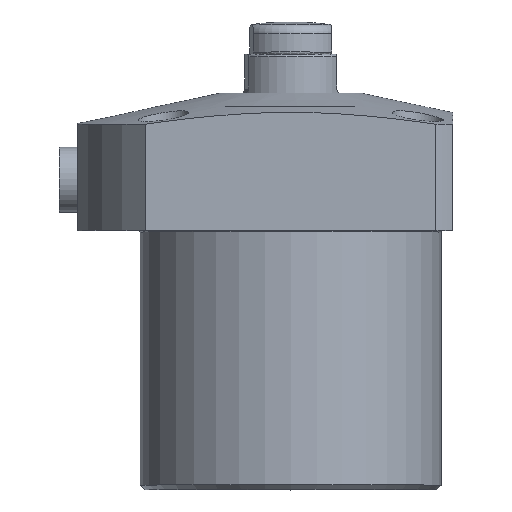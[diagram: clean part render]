
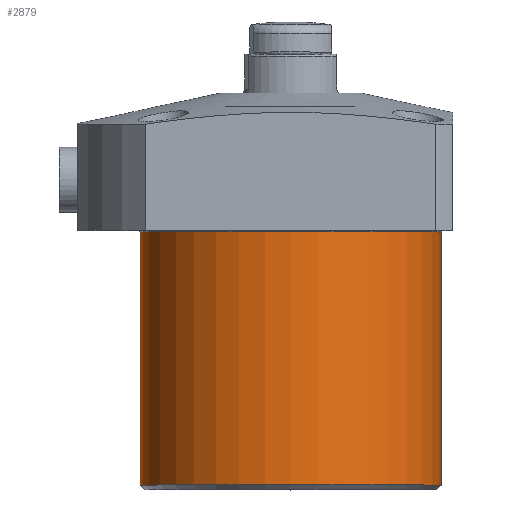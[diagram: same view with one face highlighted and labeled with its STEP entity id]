
A CAD part, top view. The second image highlights one B-rep face of the part: STEP entity #2879.
In plain terms, the highlighted cylindrical face has radius 32.5 mm (diameter 65 mm), a full revolution.
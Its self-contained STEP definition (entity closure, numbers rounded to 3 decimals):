
#2879=ADVANCED_FACE('',(#3316,#3317),#3162,.T.);
#3162=CYLINDRICAL_SURFACE('',#6907,32.5);
#3316=FACE_BOUND('',#3627,.T.);
#3317=FACE_BOUND('',#3628,.T.);
#3627=EDGE_LOOP('',(#4216));
#3628=EDGE_LOOP('',(#4217));
#4216=ORIENTED_EDGE('',*,*,#6028,.F.);
#4217=ORIENTED_EDGE('',*,*,#6026,.T.);
#5497=VERTEX_POINT('',#9062);
#5499=VERTEX_POINT('',#9067);
#6026=EDGE_CURVE('',#5497,#5497,#6664,.T.);
#6028=EDGE_CURVE('',#5499,#5499,#6666,.T.);
#6664=CIRCLE('',#6903,32.5);
#6666=CIRCLE('',#6906,32.5);
#6903=AXIS2_PLACEMENT_3D('',#9061,#7546,#7547);
#6906=AXIS2_PLACEMENT_3D('',#9066,#7552,#7553);
#6907=AXIS2_PLACEMENT_3D('',#9068,#7554,#7555);
#7546=DIRECTION('',(0.,1.,0.));
#7547=DIRECTION('',(-1.,0.,0.));
#7552=DIRECTION('',(0.,1.,0.));
#7553=DIRECTION('',(-1.,0.,0.));
#7554=DIRECTION('',(0.,1.,0.));
#7555=DIRECTION('',(1.,0.,0.));
#9061=CARTESIAN_POINT('',(6.575,-43.702,93.238));
#9062=CARTESIAN_POINT('',(-25.925,-43.702,93.238));
#9066=CARTESIAN_POINT('',(6.575,10.998,93.238));
#9067=CARTESIAN_POINT('',(-25.925,10.998,93.238));
#9068=CARTESIAN_POINT('',(6.575,43.036,93.238));
